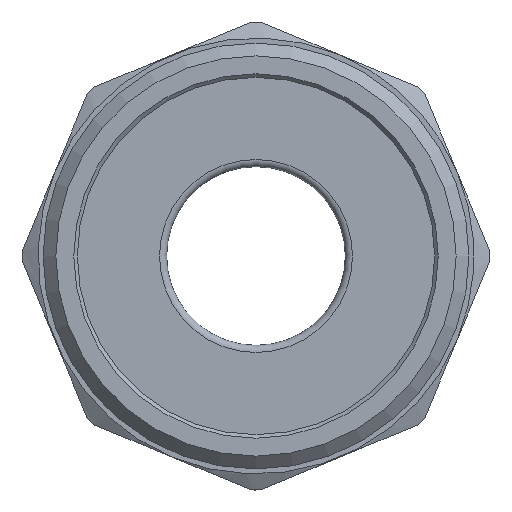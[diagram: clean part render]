
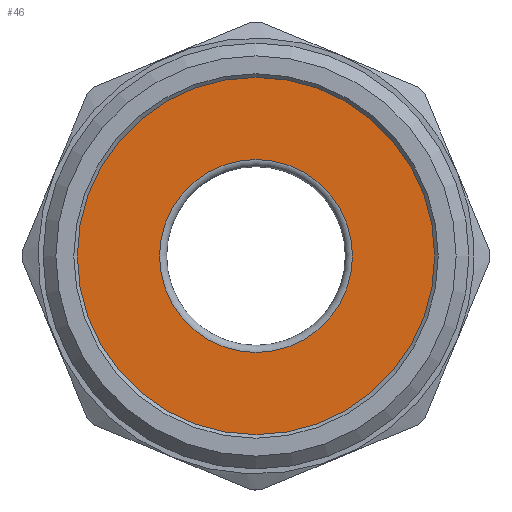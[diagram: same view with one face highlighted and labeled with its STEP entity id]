
A CAD part, front view. The second image highlights one B-rep face of the part: STEP entity #46.
In plain terms, the highlighted planar face has unit normal (0, -1, 0).
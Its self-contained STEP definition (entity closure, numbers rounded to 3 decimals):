
#46=ADVANCED_FACE('',(#102,#104),#106,.T.);
#102=FACE_BOUND('',#103,.T.);
#103=EDGE_LOOP('',(#396));
#104=FACE_BOUND('',#105,.T.);
#105=EDGE_LOOP('',(#397));
#106=PLANE('',#107);
#107=AXIS2_PLACEMENT_3D('',#108,#109,#110);
#108=CARTESIAN_POINT('',(0.,1.,0.));
#109=DIRECTION('',(0.,-1.,0.));
#110=DIRECTION('',(1.,0.,0.));
#396=ORIENTED_EDGE('',*,*,#558,.T.);
#397=ORIENTED_EDGE('',*,*,#559,.F.);
#558=EDGE_CURVE('',#643,#643,#644,.T.);
#559=EDGE_CURVE('',#645,#645,#646,.F.);
#643=VERTEX_POINT('',#791);
#644=CIRCLE('',#792,25.);
#645=VERTEX_POINT('',#796);
#646=CIRCLE('',#797,13.5);
#791=CARTESIAN_POINT('',(25.,1.,0.));
#792=AXIS2_PLACEMENT_3D('',#793,#794,#795);
#793=CARTESIAN_POINT('',(0.,1.,0.));
#794=DIRECTION('',(0.,-1.,0.));
#795=DIRECTION('',(1.,0.,0.));
#796=CARTESIAN_POINT('',(-13.5,1.,0.));
#797=AXIS2_PLACEMENT_3D('',#798,#799,#800);
#798=CARTESIAN_POINT('',(0.,1.,0.));
#799=DIRECTION('',(0.,1.,0.));
#800=DIRECTION('',(-1.,0.,0.));
